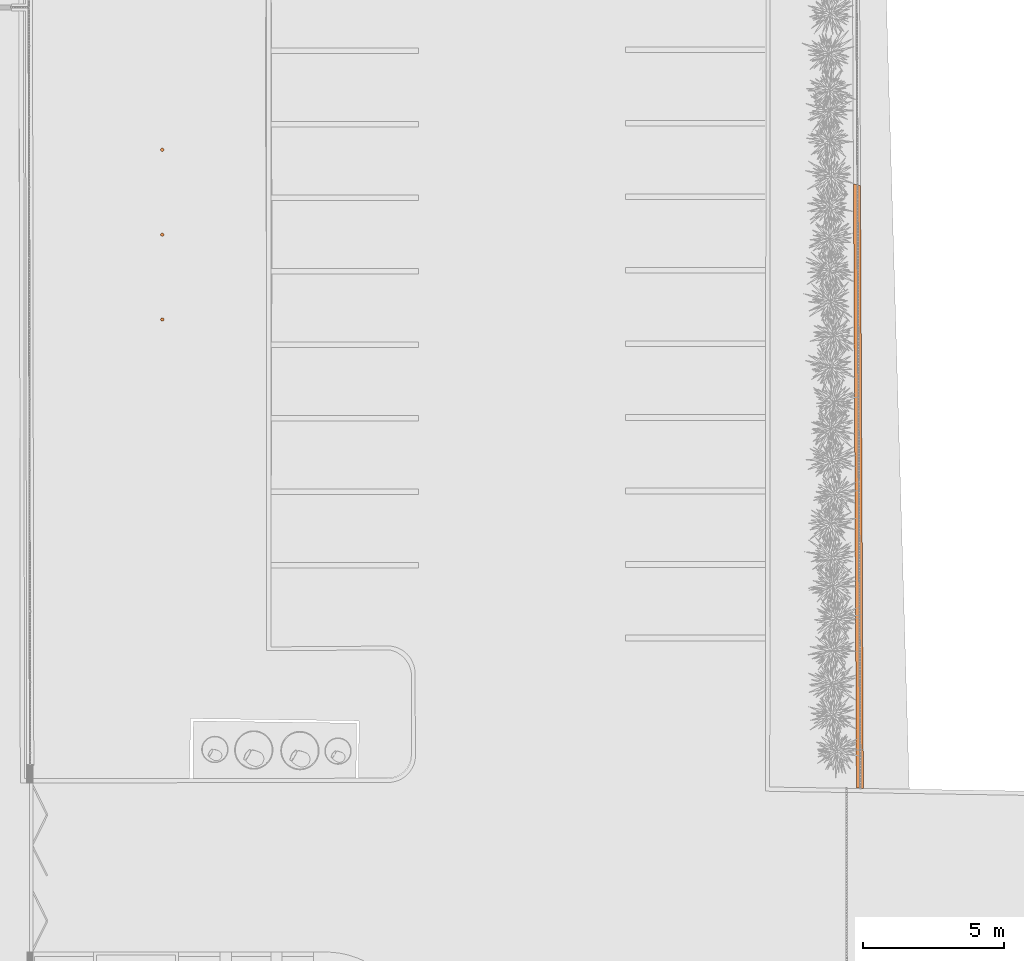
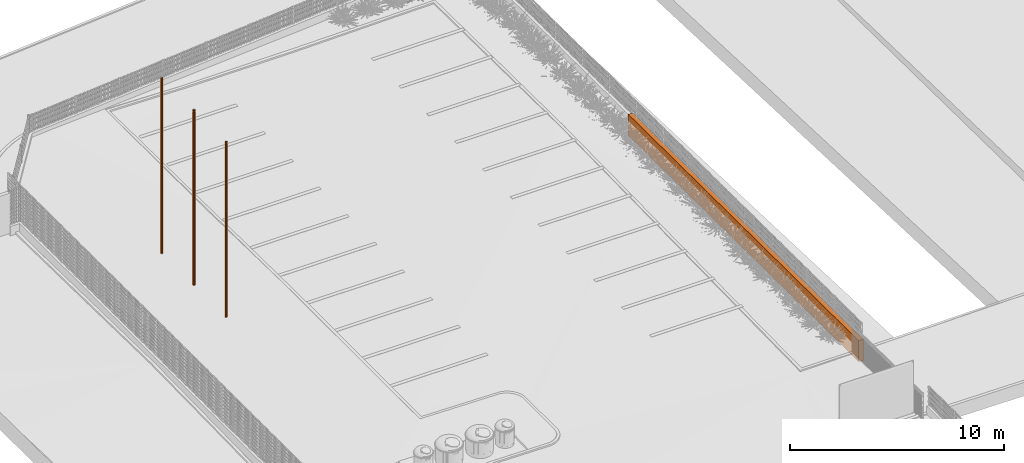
# One storey, part 40 of 1809: 4 proxies.
"""IFC2X3 building model written with IfcOpenShell, lengths in millimetres."""

from ifc_helpers import new_model, entity, si_unit, converted_unit, derived_unit, money_unit, direction, frame, origin_with_axes, place, context, subcontext, project, spatial, polyline, outline, extrude, faceted_brep, source, transform, mapped, material, type_object, element, save


model = new_model("IFC2X3")

# Units and contexts
model_context = context("Model", 3, precision=0.01, world=origin_with_axes(), true_north=direction((0.0, 1.0)))
body_context = subcontext(model_context, "Body", "Model", "MODEL_VIEW")
ifc_project = project(units=[si_unit("LENGTHUNIT", "METRE", prefix="MILLI"), si_unit("AREAUNIT", "SQUARE_METRE"), si_unit("VOLUMEUNIT", "CUBIC_METRE"), converted_unit("PLANEANGLEUNIT", "DEGREE", entity("IfcPlaneAngleMeasure", 0.0174532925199), si_unit("PLANEANGLEUNIT", "RADIAN"), dimensions=[0, 0, 0, 0, 0, 0, 0]), si_unit("SOLIDANGLEUNIT", "STERADIAN"), money_unit("EUR"), converted_unit("TIMEUNIT", "Year", entity("IfcTimeMeasure", 31556926.0), si_unit("TIMEUNIT", "SECOND"), dimensions=[0, 0, 1, 0, 0, 0, 0]), si_unit("MASSUNIT", "GRAM", prefix="KILO"), si_unit("THERMODYNAMICTEMPERATUREUNIT", "DEGREE_CELSIUS"), si_unit("LUMINOUSINTENSITYUNIT", "LUMEN"), si_unit("ENERGYUNIT", "JOULE", prefix="MEGA"), derived_unit("THERMALCONDUCTANCEUNIT", [(si_unit("POWERUNIT", "WATT"), 1), (si_unit("LENGTHUNIT", "METRE"), -1), (si_unit("THERMODYNAMICTEMPERATUREUNIT", "KELVIN"), -1)]), derived_unit("SPECIFICHEATCAPACITYUNIT", [(si_unit("ENERGYUNIT", "JOULE"), 1), (si_unit("MASSUNIT", "GRAM", prefix="KILO"), -1), (si_unit("THERMODYNAMICTEMPERATUREUNIT", "KELVIN"), -1)]), derived_unit("MASSDENSITYUNIT", [(si_unit("MASSUNIT", "GRAM", prefix="KILO"), 1), (si_unit("VOLUMEUNIT", "CUBIC_METRE"), -1)])], contexts=[model_context])

# Site, building, storey
site_placement = place(None, origin_with_axes())
site = spatial("IfcSite", under=ifc_project, at=site_placement, Name="Politse- ja Piirivalveameti ning Päästeameti ühishoone", CompositionType="ELEMENT")
building_placement = place(site_placement, origin_with_axes())
building = spatial("IfcBuilding", under=site, at=building_placement, Name="Politse- ja Piirivalveameti ning Päästeameti ühishoone", CompositionType="ELEMENT")
storey_placement = place(building_placement, origin_with_axes())
storey = spatial("IfcBuildingStorey", under=building, at=storey_placement, Name="Esimene korrus", CompositionType="ELEMENT", Elevation=0.0)

# Proxies
building_element_proxy_type_1 = type_object("IfcBuildingElementProxyType", Name="Bollard 23", PredefinedType="NOTDEFINED")
shared_shape = source(origin_with_axes(), body_context, "Body", "Brep", [
    faceted_brep([(51.9615242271, -30.0, 0.0), (30.0, -51.9615242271, 0.0), (0.0, -60.0, 0.0), (-30.0, -51.9615242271, 0.0), (-51.9615242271, -30.0, 0.0), (-60.0, 0.0, 0.0), (-51.9615242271, 30.0, 0.0), (-30.0, 51.9615242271, 0.0), (0.0, 60.0, 0.0), (30.0, 51.9615242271, 0.0), (51.9615242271, 30.0, 0.0), (60.0, 0.0, 0.0), (51.9615242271, -30.0, 9850.0), (30.0, -51.9615242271, 9850.0), (0.0, -60.0, 9850.0), (-30.0, -51.9615242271, 9850.0), (-51.9615242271, -30.0, 9850.0), (-60.0, 0.0, 9850.0), (-51.9615242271, 30.0, 9850.0), (-30.0, 51.9615242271, 9850.0), (0.0, 60.0, 9850.0), (30.0, 51.9615242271, 9850.0), (51.9615242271, 30.0, 9850.0), (60.0, 0.0, 9850.0)], [[[0, 1, 2, 3, 4, 5, 6, 7, 8, 9, 10, 11]], [[1, 0, 12, 13]], [[2, 1, 13, 14]], [[3, 2, 14, 15]], [[4, 3, 15, 16]], [[5, 4, 16, 17]], [[6, 5, 17, 18]], [[7, 6, 18, 19]], [[8, 7, 19, 20]], [[9, 8, 20, 21]], [[10, 9, 21, 22]], [[11, 10, 22, 23]], [[0, 11, 23, 12]], [[12, 23, 22, 21, 20, 19, 18, 17, 16, 15, 14, 13]]]),
    faceted_brep([(41.5692193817, -24.0, 9850.0), (24.0, -41.5692193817, 9850.0), (0.0, -48.0, 9850.0), (-24.0, -41.5692193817, 9850.0), (-41.5692193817, -24.0, 9850.0), (-48.0, 0.0, 9850.0), (-41.5692193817, 24.0, 9850.0), (-24.0, 41.5692193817, 9850.0), (0.0, 48.0, 9850.0), (24.0, 41.5692193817, 9850.0), (41.5692193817, 24.0, 9850.0), (48.0, 0.0, 9850.0), (41.5692193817, -24.0, 9900.0), (24.0, -41.5692193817, 9900.0), (0.0, -48.0, 9900.0), (-24.0, -41.5692193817, 9900.0), (-41.5692193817, -24.0, 9900.0), (-48.0, 0.0, 9900.0), (-41.5692193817, 24.0, 9900.0), (-24.0, 41.5692193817, 9900.0), (0.0, 48.0, 9900.0), (24.0, 41.5692193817, 9900.0), (41.5692193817, 24.0, 9900.0), (48.0, 0.0, 9900.0)], [[[0, 1, 2, 3, 4, 5, 6, 7, 8, 9, 10, 11]], [[1, 0, 12, 13]], [[2, 1, 13, 14]], [[3, 2, 14, 15]], [[4, 3, 15, 16]], [[5, 4, 16, 17]], [[6, 5, 17, 18]], [[7, 6, 18, 19]], [[8, 7, 19, 20]], [[9, 8, 20, 21]], [[10, 9, 21, 22]], [[11, 10, 22, 23]], [[0, 11, 23, 12]], [[12, 23, 22, 21, 20, 19, 18, 17, 16, 15, 14, 13]]]),
    faceted_brep([(51.9615242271, -30.0, 9900.0), (30.0, -51.9615242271, 9900.0), (0.0, -60.0, 9900.0), (-30.0, -51.9615242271, 9900.0), (-51.9615242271, -30.0, 9900.0), (-60.0, 0.0, 9900.0), (-51.9615242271, 30.0, 9900.0), (-30.0, 51.9615242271, 9900.0), (0.0, 60.0, 9900.0), (30.0, 51.9615242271, 9900.0), (51.9615242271, 30.0, 9900.0), (60.0, 0.0, 9900.0), (51.9615242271, -30.0, 10000.0), (30.0, -51.9615242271, 10000.0), (0.0, -60.0, 10000.0), (-30.0, -51.9615242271, 10000.0), (-51.9615242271, -30.0, 10000.0), (-60.0, 0.0, 10000.0), (-51.9615242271, 30.0, 10000.0), (-30.0, 51.9615242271, 10000.0), (0.0, 60.0, 10000.0), (30.0, 51.9615242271, 10000.0), (51.9615242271, 30.0, 10000.0), (60.0, 0.0, 10000.0)], [[[0, 1, 2, 3, 4, 5, 6, 7, 8, 9, 10, 11]], [[1, 0, 12, 13]], [[2, 1, 13, 14]], [[3, 2, 14, 15]], [[4, 3, 15, 16]], [[5, 4, 16, 17]], [[6, 5, 17, 18]], [[7, 6, 18, 19]], [[8, 7, 19, 20]], [[9, 8, 20, 21]], [[10, 9, 21, 22]], [[11, 10, 22, 23]], [[0, 11, 23, 12]], [[12, 23, 22, 21, 20, 19, 18, 17, 16, 15, 14, 13]]]),
])
for number, where, z_axis, x_axis in (
    (1, (64321.5225311, 64033.4598278, 0.0), (0.0, 0.0, 1.0), (1.0, 0.0, 0.0)),
    (2, (64321.5225311, 67033.4598278, 0.0), (0.0, 0.0, 1.0), (1.0, 0.0, 0.0)),
    (3, (64321.5225311, 70033.4598278, 0.0), (0.0, 0.0, 1.0), (1.0, 0.0, 0.0)),
):
    element("IfcBuildingElementProxy", number, at=place(storey_placement, frame(where, z_axis=z_axis, x_axis=x_axis)), inside=storey, type_object=building_element_proxy_type_1, Name="LIPUMAST", context=body_context, shape_type="MappedRepresentation", body=[
        mapped(shared_shape, transform((0.0, 0.0, 0.0))),
    ])
ifc_material = material(Name="Betoon")
building_element_proxy_type_2 = type_object("IfcBuildingElementProxyType", Name="Betoon 1200", PredefinedType="NOTDEFINED")
proxy_placement = place(storey_placement, frame((88762.5953272, 68826.8238243, 100.0), z_axis=(0.0, 0.0, 1.0), x_axis=(1.0, 0.0, 0.0)))
element("IfcBuildingElementProxy", 4, at=proxy_placement, inside=storey, type_object=building_element_proxy_type_2, material=ifc_material, Name="PIIRDEAED", context=body_context, shape_type="SweptSolid", body=[
    extrude(outline(polyline([(0.0, 0.0), (102.337151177, -21365.0071143), (352.407307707, -21379.0550649), (250.305031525, -63.082947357), (0.0, 0.0)])), frame((0.0, 0.0, -1200.0), z_axis=(0.0, 0.0, 1.0), x_axis=(1.0, 0.0, 0.0)), (0.0, 0.0, 1.0), 1200.0),
])

save(model, "model.ifc")
